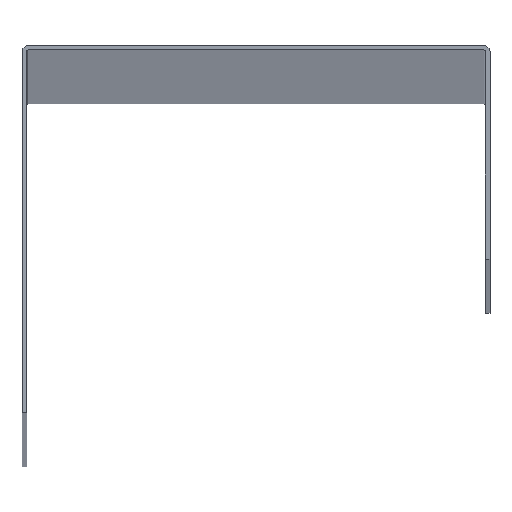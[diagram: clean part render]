
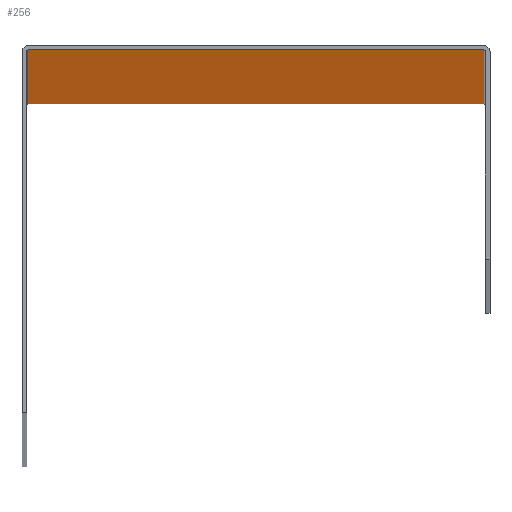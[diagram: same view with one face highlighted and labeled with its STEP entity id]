
A CAD part, top view. The second image highlights one B-rep face of the part: STEP entity #256.
In plain terms, the highlighted planar face has unit normal (0, -1, 0).
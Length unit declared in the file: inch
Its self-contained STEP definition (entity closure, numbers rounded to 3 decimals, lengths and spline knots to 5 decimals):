
#16=PLANE('',#296);
#28=FACE_OUTER_BOUND('',#42,.T.);
#42=EDGE_LOOP('',(#189,#190,#191,#192));
#54=LINE('',#394,#82);
#58=LINE('',#406,#86);
#60=LINE('',#411,#88);
#61=LINE('',#412,#89);
#82=VECTOR('',#320,0.3937);
#86=VECTOR('',#330,0.3937);
#88=VECTOR('',#336,0.3937);
#89=VECTOR('',#337,0.3937);
#117=VERTEX_POINT('',#387);
#120=VERTEX_POINT('',#392);
#124=VERTEX_POINT('',#403);
#125=VERTEX_POINT('',#405);
#144=EDGE_CURVE('',#120,#117,#54,.T.);
#149=EDGE_CURVE('',#124,#125,#58,.T.);
#152=EDGE_CURVE('',#125,#120,#60,.T.);
#153=EDGE_CURVE('',#124,#117,#61,.T.);
#189=ORIENTED_EDGE('',*,*,#144,.F.);
#190=ORIENTED_EDGE('',*,*,#152,.F.);
#191=ORIENTED_EDGE('',*,*,#149,.F.);
#192=ORIENTED_EDGE('',*,*,#153,.T.);
#256=ADVANCED_FACE('',(#28),#16,.T.);
#296=AXIS2_PLACEMENT_3D('',#410,#334,#335);
#320=DIRECTION('',(0.,0.,-1.));
#330=DIRECTION('',(0.,0.,1.));
#334=DIRECTION('center_axis',(0.,-1.,0.));
#335=DIRECTION('ref_axis',(1.,0.,0.));
#336=DIRECTION('',(1.,0.,0.));
#337=DIRECTION('',(1.,0.,0.));
#387=CARTESIAN_POINT('',(1.7719,1.408,0.));
#392=CARTESIAN_POINT('',(1.7719,1.408,120.));
#394=CARTESIAN_POINT('',(1.7719,1.408,0.));
#403=CARTESIAN_POINT('',(0.0071,1.408,0.));
#405=CARTESIAN_POINT('',(0.0071,1.408,120.));
#406=CARTESIAN_POINT('',(0.0071,1.408,0.));
#410=CARTESIAN_POINT('Origin',(0.,1.408,0.));
#411=CARTESIAN_POINT('',(0.,1.408,120.));
#412=CARTESIAN_POINT('',(0.,1.408,0.));
